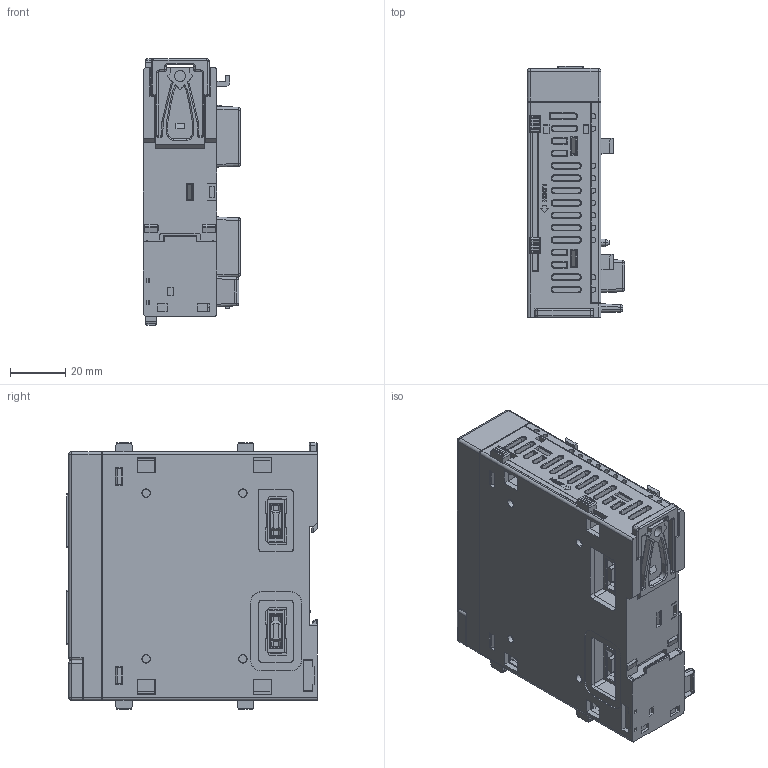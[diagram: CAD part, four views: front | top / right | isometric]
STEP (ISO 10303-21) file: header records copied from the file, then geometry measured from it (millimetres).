
FILE_DESCRIPTION((''),'2;1');
FILE_NAME('XCPU-CM55_ASM','2022-06-22T22:50:11',('Jacky Chang'),(''),'CREO PARAMETRIC BY PTC INC, 2021284','CREO PARAMETRIC BY PTC INC, 2021284','');
FILE_SCHEMA(('CONFIG_CONTROL_DESIGN'));
Products named in the file (2): XCPU-CM55-UP-COVER; XCPU-CM55_ASM
Assembly tree (1 placements, depth 2):
  XCPU-CM55_ASM
    XCPU-CM55-UP-COVER
Bounding box: 35.2 x 90.8 x 96.6 mm (x, y, z)
Volume: 200665.5 mm3; surface area: 45048.6 mm2
Topology: 1 solids, 2 shells, 2647 faces, 7020 edges, 4411 vertices
Faces by surface type: plane 1689, cylinder 613, torus 114, cone 85, extrusion 60, sphere 58, bspline 28
Entity records: 82507 total; most frequent: CARTESIAN_POINT 17096, ORIENTED_EDGE 13984, DIRECTION 12876, EDGE_CURVE 6992, VECTOR 5418, LINE 5358, VERTEX_POINT 4411, AXIS2_PLACEMENT_3D 3729
